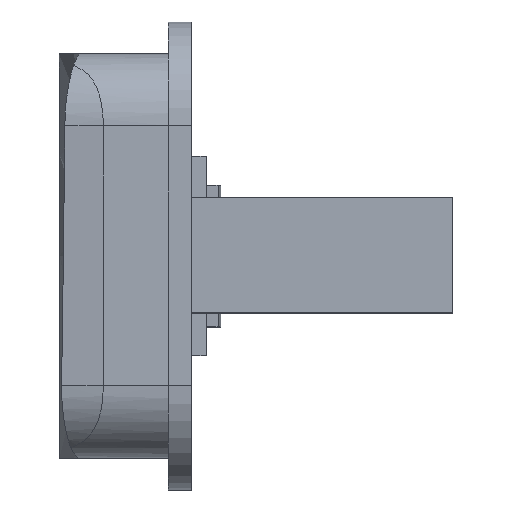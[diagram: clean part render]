
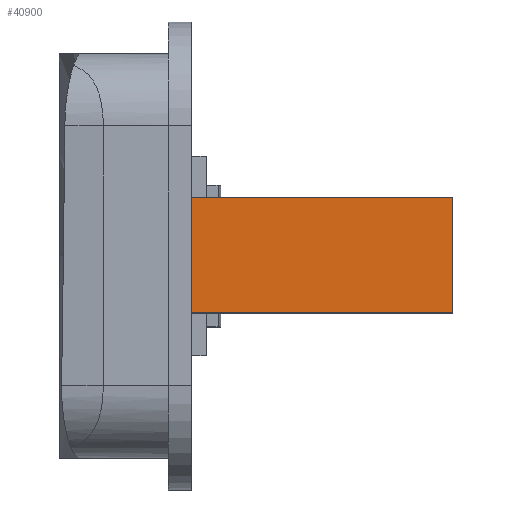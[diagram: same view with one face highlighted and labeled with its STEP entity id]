
A CAD part, top view. The second image highlights one B-rep face of the part: STEP entity #40900.
In plain terms, the highlighted planar face has unit normal (0, 0, 1).
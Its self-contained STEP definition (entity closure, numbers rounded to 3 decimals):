
#38963 = PLANE('',#38964);
#38964 = AXIS2_PLACEMENT_3D('',#38965,#38966,#38967);
#38965 = CARTESIAN_POINT('',(13.283,-75.6,3.));
#38966 = DIRECTION('',(1.,0.,-0.));
#38967 = DIRECTION('',(0.,0.,1.));
#39938 = VERTEX_POINT('',#39939);
#39939 = CARTESIAN_POINT('',(13.283,-70.58,10.4));
#39952 = PLANE('',#39953);
#39953 = AXIS2_PLACEMENT_3D('',#39954,#39955,#39956);
#39954 = CARTESIAN_POINT('',(12.8,-70.58,8.4));
#39955 = DIRECTION('',(-0.,1.,0.));
#39956 = DIRECTION('',(0.,0.,1.));
#39963 = EDGE_CURVE('',#39964,#39938,#39966,.T.);
#39964 = VERTEX_POINT('',#39965);
#39965 = CARTESIAN_POINT('',(13.283,-66.58,10.4));
#39966 = SURFACE_CURVE('',#39967,(#39971,#39977),.PCURVE_S1.);
#39967 = LINE('',#39968,#39969);
#39968 = CARTESIAN_POINT('',(13.283,-73.09,10.4));
#39969 = VECTOR('',#39970,1.);
#39970 = DIRECTION('',(0.,-1.,0.));
#39971 = PCURVE('',#38963,#39972);
#39972 = DEFINITIONAL_REPRESENTATION('',(#39973),#39976);
#39973 = B_SPLINE_CURVE_WITH_KNOTS('',1,(#39974,#39975),.UNSPECIFIED.,
  .F.,.F.,(2,2),(-6.51,-2.51),.PIECEWISE_BEZIER_KNOTS.);
#39974 = CARTESIAN_POINT('',(7.4,-9.02));
#39975 = CARTESIAN_POINT('',(7.4,-5.02));
#39976 = ( GEOMETRIC_REPRESENTATION_CONTEXT(2) 
PARAMETRIC_REPRESENTATION_CONTEXT() REPRESENTATION_CONTEXT('2D SPACE',''
  ) );
#39977 = PCURVE('',#39978,#39983);
#39978 = PLANE('',#39979);
#39979 = AXIS2_PLACEMENT_3D('',#39980,#39981,#39982);
#39980 = CARTESIAN_POINT('',(12.8,-70.58,10.4));
#39981 = DIRECTION('',(0.,0.,1.));
#39982 = DIRECTION('',(1.,0.,-0.));
#39983 = DEFINITIONAL_REPRESENTATION('',(#39984),#39987);
#39984 = B_SPLINE_CURVE_WITH_KNOTS('',1,(#39985,#39986),.UNSPECIFIED.,
  .F.,.F.,(2,2),(-6.51,-2.51),.PIECEWISE_BEZIER_KNOTS.);
#39985 = CARTESIAN_POINT('',(0.483,4.));
#39986 = CARTESIAN_POINT('',(0.483,0.));
#39987 = ( GEOMETRIC_REPRESENTATION_CONTEXT(2) 
PARAMETRIC_REPRESENTATION_CONTEXT() REPRESENTATION_CONTEXT('2D SPACE',''
  ) );
#40002 = PLANE('',#40003);
#40003 = AXIS2_PLACEMENT_3D('',#40004,#40005,#40006);
#40004 = CARTESIAN_POINT('',(12.8,-66.58,8.4));
#40005 = DIRECTION('',(-0.,1.,0.));
#40006 = DIRECTION('',(0.,0.,1.));
#40734 = PLANE('',#40735);
#40735 = AXIS2_PLACEMENT_3D('',#40736,#40737,#40738);
#40736 = CARTESIAN_POINT('',(22.34,-70.58,8.4));
#40737 = DIRECTION('',(1.,0.,-0.));
#40738 = DIRECTION('',(0.,0.,1.));
#40857 = EDGE_CURVE('',#39964,#40858,#40860,.T.);
#40858 = VERTEX_POINT('',#40859);
#40859 = CARTESIAN_POINT('',(22.34,-66.58,10.4));
#40860 = SURFACE_CURVE('',#40861,(#40865,#40872),.PCURVE_S1.);
#40861 = LINE('',#40862,#40863);
#40862 = CARTESIAN_POINT('',(12.8,-66.58,10.4));
#40863 = VECTOR('',#40864,1.);
#40864 = DIRECTION('',(1.,0.,-0.));
#40865 = PCURVE('',#40002,#40866);
#40866 = DEFINITIONAL_REPRESENTATION('',(#40867),#40871);
#40867 = LINE('',#40868,#40869);
#40868 = CARTESIAN_POINT('',(2.,0.));
#40869 = VECTOR('',#40870,1.);
#40870 = DIRECTION('',(0.,1.));
#40871 = ( GEOMETRIC_REPRESENTATION_CONTEXT(2) 
PARAMETRIC_REPRESENTATION_CONTEXT() REPRESENTATION_CONTEXT('2D SPACE',''
  ) );
#40872 = PCURVE('',#39978,#40873);
#40873 = DEFINITIONAL_REPRESENTATION('',(#40874),#40878);
#40874 = LINE('',#40875,#40876);
#40875 = CARTESIAN_POINT('',(0.,4.));
#40876 = VECTOR('',#40877,1.);
#40877 = DIRECTION('',(1.,0.));
#40878 = ( GEOMETRIC_REPRESENTATION_CONTEXT(2) 
PARAMETRIC_REPRESENTATION_CONTEXT() REPRESENTATION_CONTEXT('2D SPACE',''
  ) );
#40900 = ADVANCED_FACE('',(#40901),#39978,.T.);
#40901 = FACE_BOUND('',#40902,.T.);
#40902 = EDGE_LOOP('',(#40903,#40904,#40905,#40928));
#40903 = ORIENTED_EDGE('',*,*,#40857,.F.);
#40904 = ORIENTED_EDGE('',*,*,#39963,.T.);
#40905 = ORIENTED_EDGE('',*,*,#40906,.T.);
#40906 = EDGE_CURVE('',#39938,#40907,#40909,.T.);
#40907 = VERTEX_POINT('',#40908);
#40908 = CARTESIAN_POINT('',(22.34,-70.58,10.4));
#40909 = SURFACE_CURVE('',#40910,(#40914,#40921),.PCURVE_S1.);
#40910 = LINE('',#40911,#40912);
#40911 = CARTESIAN_POINT('',(12.8,-70.58,10.4));
#40912 = VECTOR('',#40913,1.);
#40913 = DIRECTION('',(1.,0.,-0.));
#40914 = PCURVE('',#39978,#40915);
#40915 = DEFINITIONAL_REPRESENTATION('',(#40916),#40920);
#40916 = LINE('',#40917,#40918);
#40917 = CARTESIAN_POINT('',(0.,0.));
#40918 = VECTOR('',#40919,1.);
#40919 = DIRECTION('',(1.,0.));
#40920 = ( GEOMETRIC_REPRESENTATION_CONTEXT(2) 
PARAMETRIC_REPRESENTATION_CONTEXT() REPRESENTATION_CONTEXT('2D SPACE',''
  ) );
#40921 = PCURVE('',#39952,#40922);
#40922 = DEFINITIONAL_REPRESENTATION('',(#40923),#40927);
#40923 = LINE('',#40924,#40925);
#40924 = CARTESIAN_POINT('',(2.,0.));
#40925 = VECTOR('',#40926,1.);
#40926 = DIRECTION('',(0.,1.));
#40927 = ( GEOMETRIC_REPRESENTATION_CONTEXT(2) 
PARAMETRIC_REPRESENTATION_CONTEXT() REPRESENTATION_CONTEXT('2D SPACE',''
  ) );
#40928 = ORIENTED_EDGE('',*,*,#40929,.T.);
#40929 = EDGE_CURVE('',#40907,#40858,#40930,.T.);
#40930 = SURFACE_CURVE('',#40931,(#40935,#40942),.PCURVE_S1.);
#40931 = LINE('',#40932,#40933);
#40932 = CARTESIAN_POINT('',(22.34,-70.58,10.4));
#40933 = VECTOR('',#40934,1.);
#40934 = DIRECTION('',(-0.,1.,0.));
#40935 = PCURVE('',#39978,#40936);
#40936 = DEFINITIONAL_REPRESENTATION('',(#40937),#40941);
#40937 = LINE('',#40938,#40939);
#40938 = CARTESIAN_POINT('',(9.54,0.));
#40939 = VECTOR('',#40940,1.);
#40940 = DIRECTION('',(0.,1.));
#40941 = ( GEOMETRIC_REPRESENTATION_CONTEXT(2) 
PARAMETRIC_REPRESENTATION_CONTEXT() REPRESENTATION_CONTEXT('2D SPACE',''
  ) );
#40942 = PCURVE('',#40734,#40943);
#40943 = DEFINITIONAL_REPRESENTATION('',(#40944),#40948);
#40944 = LINE('',#40945,#40946);
#40945 = CARTESIAN_POINT('',(2.,0.));
#40946 = VECTOR('',#40947,1.);
#40947 = DIRECTION('',(0.,-1.));
#40948 = ( GEOMETRIC_REPRESENTATION_CONTEXT(2) 
PARAMETRIC_REPRESENTATION_CONTEXT() REPRESENTATION_CONTEXT('2D SPACE',''
  ) );
